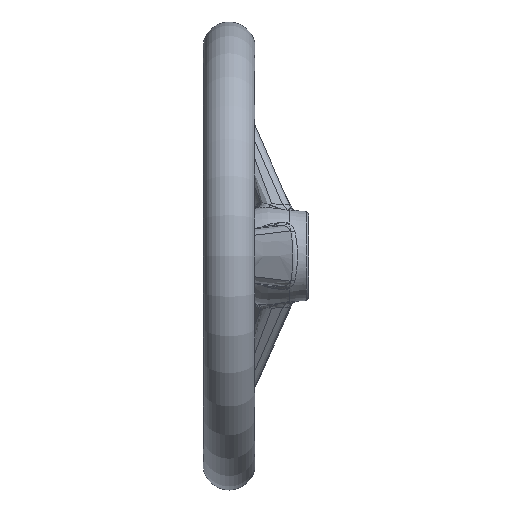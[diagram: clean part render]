
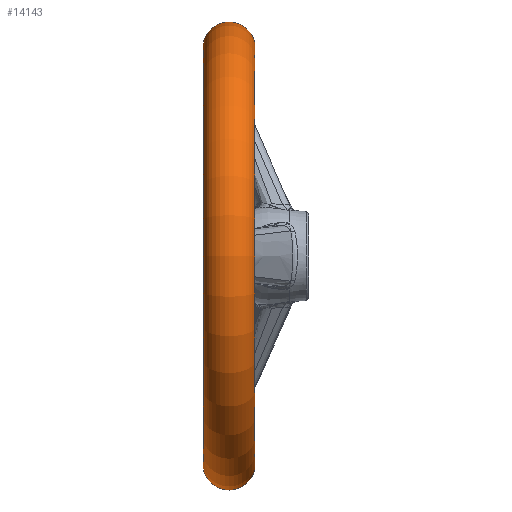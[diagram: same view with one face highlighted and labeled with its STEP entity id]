
A CAD part, left-side view. The second image highlights one B-rep face of the part: STEP entity #14143.
In plain terms, the highlighted toroidal (fillet/blend) face has major radius 88.778 mm and minor radius 11.222 mm.
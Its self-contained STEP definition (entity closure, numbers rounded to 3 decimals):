
#13725 = ORIENTED_EDGE ( 'NONE', *, *, #16896, .T. ) ;
#13783 = ORIENTED_EDGE ( 'NONE', *, *, #24112, .F. ) ;
#13801 = ORIENTED_EDGE ( 'NONE', *, *, #17131, .T. ) ;
#14143 = ADVANCED_FACE ( 'NONE', ( #20593 ), #20540, .T. ) ;
#16805 = VERTEX_POINT ( 'NONE', #20720 ) ;
#16860 = EDGE_CURVE ( 'NONE', #16805, #17140, #20862, .T. ) ;
#16862 = VERTEX_POINT ( 'NONE', #20842 ) ;
#16896 = EDGE_CURVE ( 'NONE', #16862, #24111, #20892, .T. ) ;
#17131 = EDGE_CURVE ( 'NONE', #24111, #17140, #20960, .T. ) ;
#17140 = VERTEX_POINT ( 'NONE', #20955 ) ;
#20540 = TOROIDAL_SURFACE ( 'NONE', #20563, 88.778, 11.222 ) ;
#20541 = DIRECTION ( 'NONE',  ( 0., -1., 0. ) ) ;
#20559 = CARTESIAN_POINT ( 'NONE',  ( 0., 34., 0. ) ) ;
#20563 = AXIS2_PLACEMENT_3D ( 'NONE', #20559, #20541, #20584 ) ;
#20584 = DIRECTION ( 'NONE',  ( 0., 0., -1. ) ) ;
#20593 = FACE_OUTER_BOUND ( 'NONE', #25533, .T. ) ;
#20720 = CARTESIAN_POINT ( 'NONE',  ( 0., 23., 91. ) ) ;
#20837 = DIRECTION ( 'NONE',  ( 0., 0., -1. ) ) ;
#20838 = DIRECTION ( 'NONE',  ( 0., -1., 0. ) ) ;
#20839 = CARTESIAN_POINT ( 'NONE',  ( 0., 23., 0. ) ) ;
#20842 = CARTESIAN_POINT ( 'NONE',  ( 0., 45., 91. ) ) ;
#20859 = AXIS2_PLACEMENT_3D ( 'NONE', #20839, #20838, #20837 ) ;
#20862 = CIRCLE ( 'NONE', #20859, 91. ) ;
#20870 = DIRECTION ( 'NONE',  ( 0., 0., -1. ) ) ;
#20871 = DIRECTION ( 'NONE',  ( 0., -1., 0. ) ) ;
#20872 = CARTESIAN_POINT ( 'NONE',  ( 0., 45., 0. ) ) ;
#20873 = AXIS2_PLACEMENT_3D ( 'NONE', #20872, #20871, #20870 ) ;
#20892 = CIRCLE ( 'NONE', #20873, 91. ) ;
#20955 = CARTESIAN_POINT ( 'NONE',  ( 0., 23., -91. ) ) ;
#20957 = DIRECTION ( 'NONE',  ( 0., 0., 1. ) ) ;
#20958 = DIRECTION ( 'NONE',  ( -1., 0., 0. ) ) ;
#20959 = CARTESIAN_POINT ( 'NONE',  ( 0., 34., -88.778 ) ) ;
#20960 = CIRCLE ( 'NONE', #20966, 11.222 ) ;
#20966 = AXIS2_PLACEMENT_3D ( 'NONE', #20959, #20958, #20957 ) ;
#21919 = DIRECTION ( 'NONE',  ( 0., 0., -1. ) ) ;
#21920 = DIRECTION ( 'NONE',  ( 1., 0., 0. ) ) ;
#21921 = CARTESIAN_POINT ( 'NONE',  ( 0., 34., 88.778 ) ) ;
#21922 = AXIS2_PLACEMENT_3D ( 'NONE', #21921, #21920, #21919 ) ;
#21925 = CIRCLE ( 'NONE', #21922, 11.222 ) ;
#21931 = CARTESIAN_POINT ( 'NONE',  ( 0., 45., -91. ) ) ;
#24111 = VERTEX_POINT ( 'NONE', #21931 ) ;
#24112 = EDGE_CURVE ( 'NONE', #16862, #16805, #21925, .T. ) ;
#25533 = EDGE_LOOP ( 'NONE', ( #13783, #13725, #13801, #26248 ) ) ;
#26248 = ORIENTED_EDGE ( 'NONE', *, *, #16860, .F. ) ;
